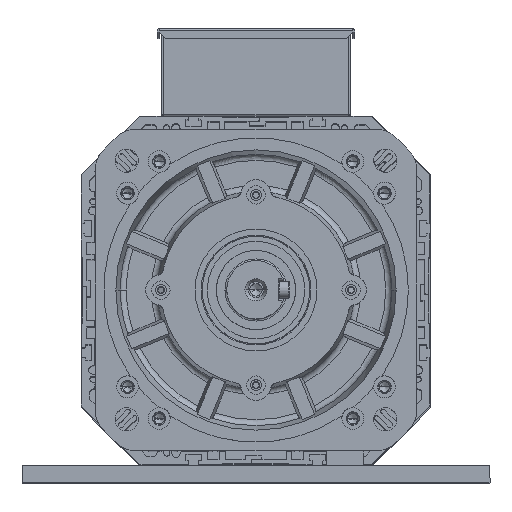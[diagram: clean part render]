
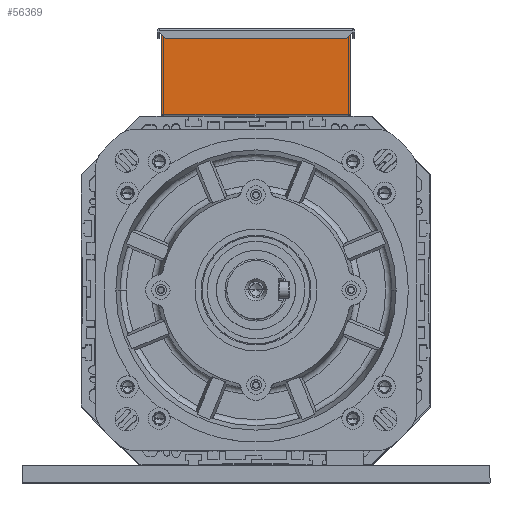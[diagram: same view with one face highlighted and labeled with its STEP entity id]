
A CAD part, top view. The second image highlights one B-rep face of the part: STEP entity #56369.
In plain terms, the highlighted planar face has unit normal (0, 0, 1) as drawn and (1, 0, 0) by its records, which use the part's own axes.
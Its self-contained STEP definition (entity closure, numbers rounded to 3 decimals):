
#1044 = CARTESIAN_POINT ( 'NONE',  ( 100., 77.5, 0. ) ) ;
#1129 = ORIENTED_EDGE ( 'NONE', *, *, #93219, .T. ) ;
#3616 = CARTESIAN_POINT ( 'NONE',  ( 100., -77.5, 0.2 ) ) ;
#7739 = EDGE_CURVE ( 'NONE', #32655, #61791, #78929, .T. ) ;
#8902 = VECTOR ( 'NONE', #72116, 1000. ) ;
#11804 = ORIENTED_EDGE ( 'NONE', *, *, #83727, .T. ) ;
#15164 = DIRECTION ( 'NONE',  ( 0., 0., 1. ) ) ;
#15756 = DIRECTION ( 'NONE',  ( 0., -1., 0. ) ) ;
#17161 = CARTESIAN_POINT ( 'NONE',  ( 100., -77.5, 0. ) ) ;
#18508 = CARTESIAN_POINT ( 'NONE',  ( 100., 0., 0. ) ) ;
#19302 = LINE ( 'NONE', #3616, #102241 ) ;
#20383 = ORIENTED_EDGE ( 'NONE', *, *, #95524, .F. ) ;
#22830 = DIRECTION ( 'NONE',  ( 0., -1., 0. ) ) ;
#23896 = VECTOR ( 'NONE', #22830, 1000. ) ;
#30869 = VECTOR ( 'NONE', #15164, 1000. ) ;
#30907 = CARTESIAN_POINT ( 'NONE',  ( 100., -77.5, 0.2 ) ) ;
#32655 = VERTEX_POINT ( 'NONE', #38624 ) ;
#33225 = CARTESIAN_POINT ( 'NONE',  ( 100., 77.5, 65.8 ) ) ;
#33376 = LINE ( 'NONE', #17161, #80534 ) ;
#35494 = DIRECTION ( 'NONE',  ( 0., -1., 0. ) ) ;
#38247 = LINE ( 'NONE', #87290, #94155 ) ;
#38624 = CARTESIAN_POINT ( 'NONE',  ( 100., 77.5, 0.2 ) ) ;
#40734 = LINE ( 'NONE', #1044, #30869 ) ;
#44391 = VERTEX_POINT ( 'NONE', #79528 ) ;
#46013 = EDGE_LOOP ( 'NONE', ( #1129, #97117, #81422, #20383, #84249, #11804 ) ) ;
#56369 = ADVANCED_FACE ( 'NONE', ( #90065 ), #73855, .F. ) ;
#57106 = AXIS2_PLACEMENT_3D ( 'NONE', #18508, #59191, #66556 ) ;
#59191 = DIRECTION ( 'NONE',  ( -1., 0., 0. ) ) ;
#61791 = VERTEX_POINT ( 'NONE', #70549 ) ;
#64371 = VERTEX_POINT ( 'NONE', #33225 ) ;
#66556 = DIRECTION ( 'NONE',  ( 0., 0., 1. ) ) ;
#67263 = DIRECTION ( 'NONE',  ( 0., 0., -1. ) ) ;
#67919 = VERTEX_POINT ( 'NONE', #85804 ) ;
#70549 = CARTESIAN_POINT ( 'NONE',  ( 100., 75.8, 0.2 ) ) ;
#72116 = DIRECTION ( 'NONE',  ( 0., -1., 0. ) ) ;
#73855 = PLANE ( 'NONE',  #57106 ) ;
#76953 = EDGE_CURVE ( 'NONE', #67919, #44391, #38247, .T. ) ;
#78173 = CARTESIAN_POINT ( 'NONE',  ( 100., 77.5, 65.8 ) ) ;
#78929 = LINE ( 'NONE', #30907, #8902 ) ;
#79528 = CARTESIAN_POINT ( 'NONE',  ( 100., -77.5, 0.2 ) ) ;
#80534 = VECTOR ( 'NONE', #67263, 1000. ) ;
#81422 = ORIENTED_EDGE ( 'NONE', *, *, #76953, .F. ) ;
#82002 = CARTESIAN_POINT ( 'NONE',  ( 100., -77.5, 65.8 ) ) ;
#83727 = EDGE_CURVE ( 'NONE', #32655, #64371, #40734, .T. ) ;
#84249 = ORIENTED_EDGE ( 'NONE', *, *, #7739, .F. ) ;
#85804 = CARTESIAN_POINT ( 'NONE',  ( 100., -75.8, 0.2 ) ) ;
#86001 = LINE ( 'NONE', #78173, #23896 ) ;
#87290 = CARTESIAN_POINT ( 'NONE',  ( 100., -77.5, 0.2 ) ) ;
#90065 = FACE_OUTER_BOUND ( 'NONE', #46013, .T. ) ;
#92944 = EDGE_CURVE ( 'NONE', #102104, #44391, #33376, .T. ) ;
#93219 = EDGE_CURVE ( 'NONE', #64371, #102104, #86001, .T. ) ;
#94155 = VECTOR ( 'NONE', #15756, 1000. ) ;
#95524 = EDGE_CURVE ( 'NONE', #61791, #67919, #19302, .T. ) ;
#97117 = ORIENTED_EDGE ( 'NONE', *, *, #92944, .T. ) ;
#102104 = VERTEX_POINT ( 'NONE', #82002 ) ;
#102241 = VECTOR ( 'NONE', #35494, 1000. ) ;
